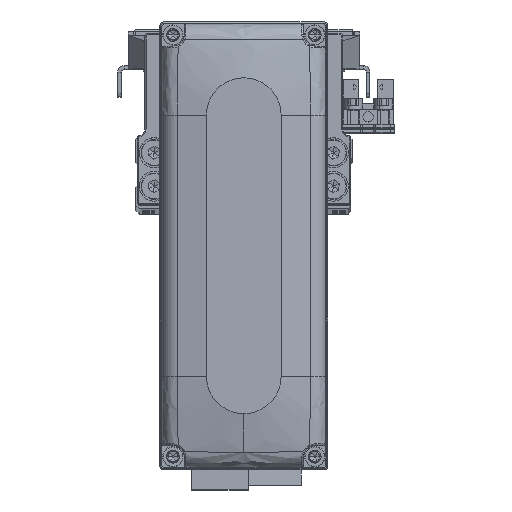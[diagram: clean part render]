
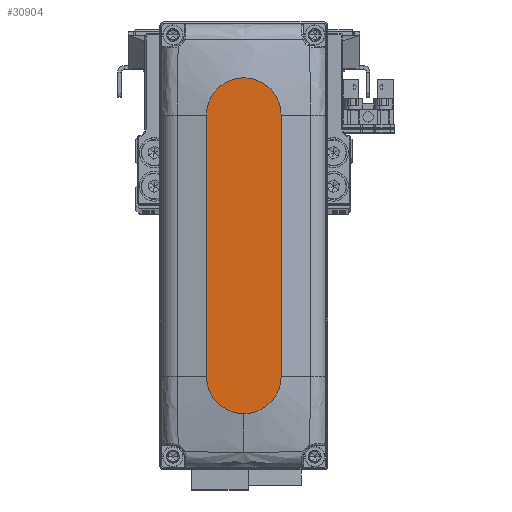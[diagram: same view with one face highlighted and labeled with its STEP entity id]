
A CAD part, top view. The second image highlights one B-rep face of the part: STEP entity #30904.
In plain terms, the highlighted planar face has unit normal (0, 0, 1).
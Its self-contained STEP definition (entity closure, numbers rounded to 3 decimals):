
#127 = DIRECTION ( 'NONE',  ( 0., 0., 1. ) ) ;
#407 = VERTEX_POINT ( 'NONE', #6133 ) ;
#1605 = CARTESIAN_POINT ( 'NONE',  ( 0., 0., 28. ) ) ;
#3784 = CARTESIAN_POINT ( 'NONE',  ( -35., 10., 28. ) ) ;
#5079 = DIRECTION ( 'NONE',  ( 0., 0., 1. ) ) ;
#6133 = CARTESIAN_POINT ( 'NONE',  ( -35., -10., 28. ) ) ;
#8783 = VERTEX_POINT ( 'NONE', #29018 ) ;
#9098 = DIRECTION ( 'NONE',  ( 1., 0., 0. ) ) ;
#9777 = VECTOR ( 'NONE', #17589, 1000. ) ;
#10057 = CARTESIAN_POINT ( 'NONE',  ( 35., -10., 28. ) ) ;
#10528 = DIRECTION ( 'NONE',  ( 1., 0., 0. ) ) ;
#11947 = ORIENTED_EDGE ( 'NONE', *, *, #43701, .T. ) ;
#13930 = DIRECTION ( 'NONE',  ( 1., 0., 0. ) ) ;
#15422 = DIRECTION ( 'NONE',  ( 0., 0., 1. ) ) ;
#17589 = DIRECTION ( 'NONE',  ( -1., 0., 0. ) ) ;
#17965 = AXIS2_PLACEMENT_3D ( 'NONE', #36062, #5079, #18889 ) ;
#18250 = CIRCLE ( 'NONE', #43513, 10. ) ;
#18493 = AXIS2_PLACEMENT_3D ( 'NONE', #31127, #127, #13930 ) ;
#18833 = FACE_OUTER_BOUND ( 'NONE', #39614, .T. ) ;
#18889 = DIRECTION ( 'NONE',  ( 1., 0., 0. ) ) ;
#20157 = ORIENTED_EDGE ( 'NONE', *, *, #36289, .T. ) ;
#20987 = VERTEX_POINT ( 'NONE', #10057 ) ;
#21007 = ORIENTED_EDGE ( 'NONE', *, *, #44415, .T. ) ;
#21825 = EDGE_CURVE ( 'NONE', #20987, #25191, #37962, .T. ) ;
#23353 = ORIENTED_EDGE ( 'NONE', *, *, #21825, .T. ) ;
#25191 = VERTEX_POINT ( 'NONE', #42432 ) ;
#26271 = LINE ( 'NONE', #40071, #28726 ) ;
#27698 = CARTESIAN_POINT ( 'NONE',  ( -35., 0., 28. ) ) ;
#28384 = ORIENTED_EDGE ( 'NONE', *, *, #37378, .T. ) ;
#28666 = CARTESIAN_POINT ( 'NONE',  ( 35., 10., 28. ) ) ;
#28726 = VECTOR ( 'NONE', #9098, 1000. ) ;
#29018 = CARTESIAN_POINT ( 'NONE',  ( -35., 10., 28. ) ) ;
#29201 = DIRECTION ( 'NONE',  ( 1., 0., 0. ) ) ;
#30904 = ADVANCED_FACE ( 'NONE', ( #18833 ), #32603, .T. ) ;
#31127 = CARTESIAN_POINT ( 'NONE',  ( 35., 0., 28. ) ) ;
#31665 = CIRCLE ( 'NONE', #17965, 10. ) ;
#32603 = PLANE ( 'NONE',  #33338 ) ;
#33338 = AXIS2_PLACEMENT_3D ( 'NONE', #1605, #15422, #29201 ) ;
#34760 = LINE ( 'NONE', #3784, #9777 ) ;
#36062 = CARTESIAN_POINT ( 'NONE',  ( 35., 0., 28. ) ) ;
#36289 = EDGE_CURVE ( 'NONE', #39981, #8783, #34760, .T. ) ;
#37378 = EDGE_CURVE ( 'NONE', #8783, #407, #18250, .T. ) ;
#37962 = CIRCLE ( 'NONE', #18493, 10. ) ;
#39614 = EDGE_LOOP ( 'NONE', ( #20157, #28384, #11947, #23353, #21007 ) ) ;
#39981 = VERTEX_POINT ( 'NONE', #28666 ) ;
#40071 = CARTESIAN_POINT ( 'NONE',  ( -35., -10., 28. ) ) ;
#41500 = DIRECTION ( 'NONE',  ( 0., 0., 1. ) ) ;
#42432 = CARTESIAN_POINT ( 'NONE',  ( 45., 0., 28. ) ) ;
#43513 = AXIS2_PLACEMENT_3D ( 'NONE', #27698, #41500, #10528 ) ;
#43701 = EDGE_CURVE ( 'NONE', #407, #20987, #26271, .T. ) ;
#44415 = EDGE_CURVE ( 'NONE', #25191, #39981, #31665, .T. ) ;
